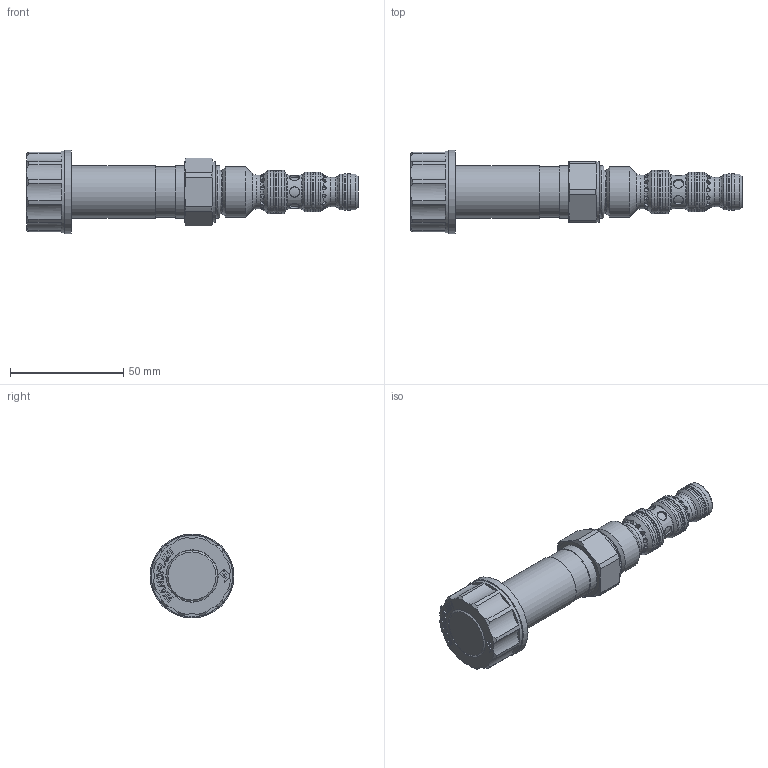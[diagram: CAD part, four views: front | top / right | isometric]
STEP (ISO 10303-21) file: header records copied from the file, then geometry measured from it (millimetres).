
FILE_DESCRIPTION (( 'STEP AP214' ), '1' );
FILE_NAME ('WDEPU10-BA-X5.STEP', '2017-12-20T07:48:17', ( '' ), ( '' ), 'SwSTEP 2.0', 'SolidWorks 2016', '' );
FILE_SCHEMA (( 'AUTOMOTIVE_DESIGN' ));
Length unit declared in the file: millimetre
Products named in the file (1): WDEPU10-BA-X5
Bounding box: 146.5 x 37 x 37 mm (x, y, z)
Volume: 62073.9 mm3; surface area: 21391.9 mm2
Topology: 13 solids, 13 shells, 391 faces, 948 edges, 615 vertices
Faces by surface type: plane 162, cylinder 113, torus 40, cone 40, bspline 36
Full cylindrical faces by diameter (mm): 1.8 x26, 4.5 x6, 10.1 x1, 12.9 x1, 12.97 x1, 12.975 x1, 13.1 x1, 14.57 x2, 14.6 x2, 15 x2, 15.87 x2, 15.901 x1, 16 x1, 16.1 x2, 16.15 x2, 17.47 x2, 17.5 x2, 17.526 x1, 19 x2, 19.05 x2, 19.106 x1, 19.15 x1, 19.547 x1, 21.5 x1, 22.225 x1, 22.4 x1, 23 x4, 23.335 x1, 24.5 x1, 26.7 x1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
Entity records: 17875 total; most frequent: CARTESIAN_POINT 5746, DIRECTION 1538, ORIENTED_EDGE 1524, EDGE_CURVE 762, AXIS2_PLACEMENT_3D 605, EDGE_LOOP 581, VERTEX_POINT 567, FACE_OUTER_BOUND 512
